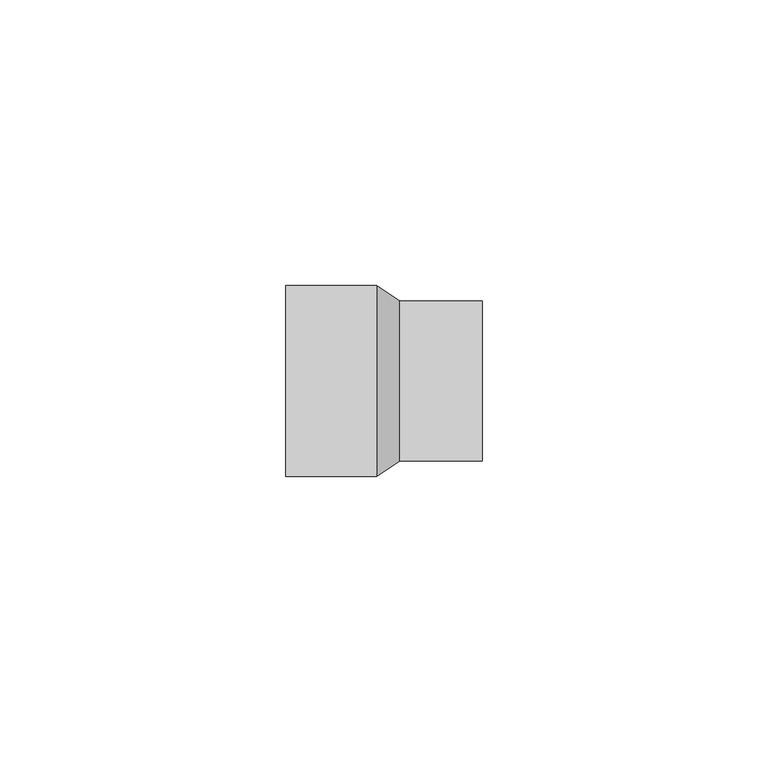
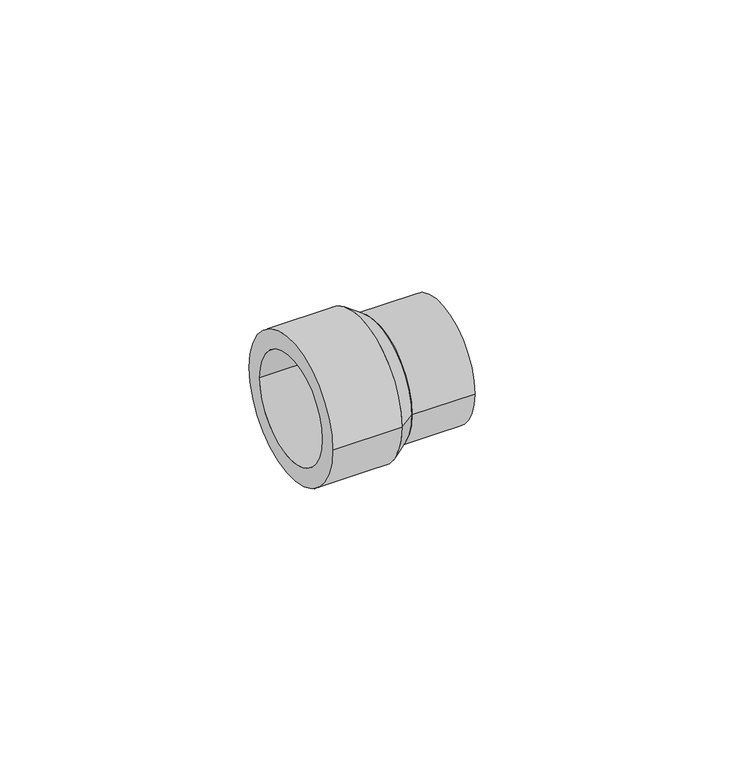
"""IFC4 building model written with IfcOpenShell, lengths in millimetres: pipe fitting geometry, 23_Муфта переходная ВВ : Серый цвет."""

from ifc_helpers import new_model, si_unit, point, frame, origin, origin_2d, place, context, project, spatial, polyline, circle_curve, trimmed, segment, composite_curve, outline, extrude, source, transform, mapped, element, save
from ifc_brep_helpers import plane_surface, revolved_surface, advanced_brep


def pipe_fitting_330d47a1(model_context):
    return source(origin(), model_context, "Body", "SolidModel", [
        extrude(outline(composite_curve([segment(trimmed(circle_curve(origin_2d(), 14.0), [point((-14.0, 0.0))], [point((14.0, 0.0))], False, "CARTESIAN"), True, "CONTINUOUS"), segment(trimmed(circle_curve(origin_2d(), 14.0), [point((14.0, 0.0))], [point((-14.0, 0.0))], False, "CARTESIAN"), True, "CONTINUOUS")], self_intersect=False), holes=[composite_curve([segment(trimmed(circle_curve(origin_2d(), 10.0), [point((-10.0, 0.0))], [point((10.0, 0.0))], True, "CARTESIAN"), True, "CONTINUOUS"), segment(trimmed(circle_curve(origin_2d(), 10.0), [point((10.0, 0.0))], [point((-10.0, 0.0))], True, "CARTESIAN"), True, "CONTINUOUS")], self_intersect=False)]), frame((2.75, 0.0, 0.0), z_axis=(1.0, 0.0, 0.0), x_axis=(0.0, 1.0, 0.0)), (0.0, 0.0, 1.0), 14.5),
        extrude(outline(composite_curve([segment(trimmed(circle_curve(origin_2d(), 16.75), [point((-16.75, 0.0))], [point((16.75, 0.0))], False, "CARTESIAN"), True, "CONTINUOUS"), segment(trimmed(circle_curve(origin_2d(), 16.75), [point((16.75, 0.0))], [point((-16.75, 0.0))], False, "CARTESIAN"), True, "CONTINUOUS")], self_intersect=False), holes=[composite_curve([segment(trimmed(circle_curve(origin_2d(), 12.5), [point((-12.5, 0.0))], [point((12.5, 0.0))], True, "CARTESIAN"), True, "CONTINUOUS"), segment(trimmed(circle_curve(origin_2d(), 12.5), [point((12.5, 0.0))], [point((-12.5, 0.0))], True, "CARTESIAN"), True, "CONTINUOUS")], self_intersect=False)]), frame((-17.25, 0.0, 0.0), z_axis=(1.0, 0.0, 0.0), x_axis=(0.0, 1.0, 0.0)), (0.0, 0.0, 1.0), 16.0),
        advanced_brep(
        [(2.75, -14.0, 0.0), (2.75, 14.0, 0.0), (2.75, 10.0, 0.0), (2.75, -10.0, 0.0), (-1.25, -16.75, 0.0), (-1.25, 16.75, 0.0), (-1.25, -12.5, 0.0), (-1.25, 12.5, 0.0)],
        [
            (0, 1, circle_curve(frame((2.75, 0.0, 0.0), z_axis=(1.0, -2.1181559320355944e-12, 0.0), x_axis=(-2.1182330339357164e-12, -1.0, 0.0)), 14.0)),
            (1, 0, circle_curve(frame((2.75, 0.0, 0.0), z_axis=(1.0, -2.1181559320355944e-12, 0.0), x_axis=(2.11823303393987e-12, 1.0, 0.0)), 14.0)),
            (2, 3, circle_curve(frame((2.75, 0.0, 0.0), z_axis=(-1.0, 0.0, 0.0), x_axis=(0.0, -1.0, 0.0)), 10.0)),
            (3, 2, circle_curve(frame((2.75, 0.0, 0.0), z_axis=(-1.0, 0.0, 0.0), x_axis=(0.0, 1.0, 0.0)), 10.0)),
            (4, 5, circle_curve(frame((-1.25, 0.0, 0.0), z_axis=(-1.0, 2.1181559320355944e-12, 0.0), x_axis=(2.11823303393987e-12, 1.0, 0.0)), 16.75)),
            (5, 4, circle_curve(frame((-1.25, 0.0, 0.0), z_axis=(-1.0, 2.1181559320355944e-12, 0.0), x_axis=(-2.1182330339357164e-12, -1.0, 0.0)), 16.75)),
            (6, 7, circle_curve(frame((-1.25, 0.0, 0.0), z_axis=(1.0, 0.0, 0.0), x_axis=(0.0, -1.0, 0.0)), 12.5)),
            (7, 6, circle_curve(frame((-1.25, 0.0, 0.0), z_axis=(1.0, 0.0, 0.0), x_axis=(0.0, 1.0, 0.0)), 12.5)),
            (0, 4),
            (5, 1),
            (6, 3),
            (2, 7),
        ],
        [
            plane_surface(frame((2.75, 0.0, 0.0), z_axis=(1.0, 0.0, 0.0), x_axis=(0.0, 0.0, -1.0))),
            plane_surface(frame((-1.25, 0.0, 0.0), z_axis=(-1.0, 0.0, 0.0), x_axis=(0.0, 0.0, -1.0))),
            revolved_surface(polyline([(2.75, -14.000000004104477, 0.0), (-1.2500000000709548, -16.750000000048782, 0.0)]), (23.1136364, 0.0, 0.0), (-1.0, 2.1181559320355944e-12, 0.0)),
            revolved_surface(polyline([(2.7500000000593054, 14.000000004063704, 0.0), (-1.25, 16.75, 0.0)]), (23.1136364, 0.0, 0.0), (-1.0, 2.1181559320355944e-12, 0.0)),
            revolved_surface(polyline([(-1.25, -12.5, 0.0), (2.75, -10.0, 0.0)]), (18.75, 0.0, 0.0), (-1.0, 0.0, 0.0)),
        ],
        [
            (0, [[1, 2], [3, 4]]),
            (1, [[5, 6], [7, 8]]),
            (2, [[-1, 9, -6, 10]]),
            (3, [[-2, -10, -5, -9]]),
            (4, [[11, -3, 12, -7]]),
            (4, [[-11, -8, -12, -4]]),
        ],
    ),
    ])


if __name__ == "__main__":
    model = new_model("IFC4")
    model_context = context("Model", 3, world=origin())
    ifc_project = project(units=[si_unit("LENGTHUNIT", "METRE", prefix="MILLI")], contexts=[model_context])
    site = spatial("IfcSite", under=ifc_project)
    building = spatial("IfcBuilding", under=site)
    placement = place(None, origin())
    pipe_fitting_shape = pipe_fitting_330d47a1(model_context)
    element("IfcPipeFitting", 1, ObjectType="23_Муфта переходная ВВ : Серый цвет", at=placement, inside=building, context=model_context, shape_type="MappedRepresentation", body=[
        mapped(pipe_fitting_shape, transform((0.0, 0.0, 0.0), x_axis=(1.0, 0.0, 0.0), y_axis=(0.0, 1.0, 0.0), z_axis=(0.0, 0.0, 1.0))),
    ])
    save(model, "model.ifc")
